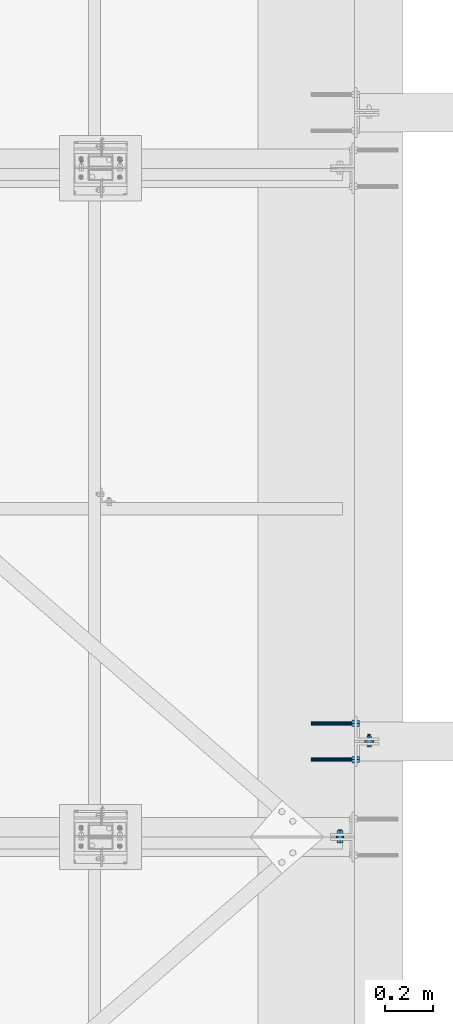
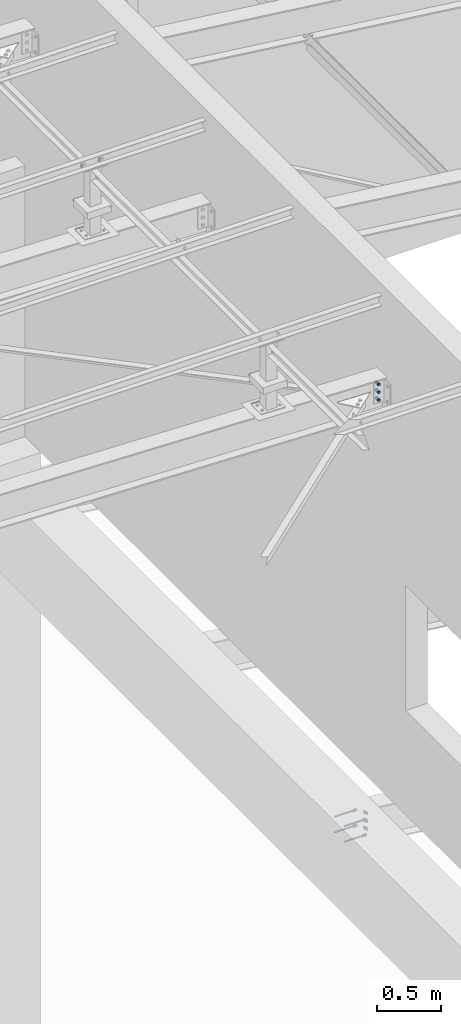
# One storey, part 276 of 3134: 5 mechanical fasteners, 5 elements without a shape of their own.
"""IFC2X3 building model written with IfcOpenShell, lengths in millimetres."""

from ifc_helpers import new_model, si_unit, frame, origin_with_axes, place, context, subcontext, project, spatial, faceted_brep, source, transform, mapped, material, type_object, element, aggregate, save


model = new_model("IFC2X3")

# Units and contexts
model_context = context("Model", 3, precision=1e-05, world=origin_with_axes())
body_context = subcontext(model_context, "Body", "Model", "MODEL_VIEW")
ifc_project = project(units=[si_unit("LENGTHUNIT", "METRE", prefix="MILLI"), si_unit("AREAUNIT", "SQUARE_METRE"), si_unit("VOLUMEUNIT", "CUBIC_METRE"), si_unit("MASSUNIT", "GRAM", prefix="KILO"), si_unit("TIMEUNIT", "SECOND"), si_unit("PLANEANGLEUNIT", "RADIAN"), si_unit("SOLIDANGLEUNIT", "STERADIAN"), si_unit("THERMODYNAMICTEMPERATUREUNIT", "DEGREE_CELSIUS"), si_unit("LUMINOUSINTENSITYUNIT", "LUMEN")], contexts=[model_context])

# Site, building, storey
site_placement = place(None, origin_with_axes())
site = spatial("IfcSite", under=ifc_project, at=site_placement, CompositionType="ELEMENT")
building_placement = place(site_placement, origin_with_axes())
building = spatial("IfcBuilding", under=site, at=building_placement, Name="Undefined", CompositionType="ELEMENT")
storey_placement = place(building_placement, origin_with_axes())
storey = spatial("IfcBuildingStorey", under=building, at=storey_placement, Name="Undefined", CompositionType="ELEMENT", Elevation=0.0)

# Assembly, mechanical fastener
assembly_1_placement = place(storey_placement, origin_with_axes())
assembly_1 = element("IfcElementAssembly", 1, at=assembly_1_placement, inside=storey, AssemblyPlace="NOTDEFINED", PredefinedType="RIGID_FRAME")
ifc_material_1 = material(Name="8.8")
mechanical_fastener_type = type_object("IfcMechanicalFastenerType", Name="Bolt assembly")
shared_shape_1 = source(origin_with_axes(), body_context, "Body", "Brep", [
    faceted_brep([(13.856406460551, -24.0, 0.0), (6.92820323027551, -24.0, 12.0), (-6.92820323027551, -24.0, 12.0), (-13.856406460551, -24.0, 1.69692038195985e-15), (-6.92820323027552, -24.0, -12.0), (6.9282032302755, -24.0, -12.0), (6.9282032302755, -14.0, -12.0), (-6.92820323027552, -14.0, -12.0), (-13.856406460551, -14.0, 1.69692038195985e-15), (-6.92820323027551, -14.0, 12.0), (6.92820323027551, -14.0, 12.0), (13.856406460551, -14.0, 0.0), (8.0, -14.0, 0.0), (6.92820323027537, -14.0, 4.00000000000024), (3.99999999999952, -14.0, 6.92820323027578), (-8.29068785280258e-13, -14.0, 8.0), (-4.00000000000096, -14.0, 6.92820323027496), (-6.9282032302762, -14.0, 3.99999999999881), (-8.0, -14.0, -1.65813757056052e-12), (-6.92820323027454, -14.0, -4.00000000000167), (-3.99999999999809, -14.0, -6.92820323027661), (2.47832457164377e-12, -14.0, -8.0), (4.00000000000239, -14.0, -6.92820323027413), (6.92820323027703, -14.0, -3.99999999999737), (6.92820323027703, 31.0, -3.99999999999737), (4.00000000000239, 31.0, -6.92820323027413), (2.47832457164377e-12, 31.0, -8.0), (-3.99999999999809, 31.0, -6.92820323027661), (-6.92820323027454, 31.0, -4.00000000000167), (-8.0, 31.0, -1.65813757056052e-12), (-6.9282032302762, 31.0, 3.99999999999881), (-4.00000000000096, 31.0, 6.92820323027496), (-8.29068785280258e-13, 31.0, 8.0), (3.99999999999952, 31.0, 6.92820323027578), (6.92820323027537, 31.0, 4.00000000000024), (8.0, 31.0, 0.0), (13.856406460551, 13.9999999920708, 0.0), (6.92820323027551, 13.9999999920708, 12.0), (-6.92820323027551, 13.9999999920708, 12.0), (-13.856406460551, 13.9999999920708, 1.69692038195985e-15), (-6.92820323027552, 13.9999999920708, -12.0), (6.9282032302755, 13.9999999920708, -12.0), (6.9282032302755, 27.0, -12.0), (-6.92820323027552, 27.0, -12.0), (-13.856406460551, 27.0, 1.69692038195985e-15), (-6.92820323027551, 27.0, 12.0), (6.92820323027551, 27.0, 12.0), (13.856406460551, 27.0, 0.0)], [[[0, 1, 2, 3, 4, 5]], [[6, 7, 8, 9, 10, 11]], [[0, 11, 10, 1]], [[1, 10, 9, 2]], [[2, 9, 8, 3]], [[3, 8, 7, 4]], [[4, 7, 6, 5]], [[5, 6, 11, 0]], [[12, 13, 14, 15, 16, 17, 18, 19, 20, 21, 22, 23]], [[24, 25, 26, 27, 28, 29, 30, 31, 32, 33, 34, 35]], [[12, 35, 34, 13]], [[13, 34, 33, 14]], [[14, 33, 32, 15]], [[15, 32, 31, 16]], [[16, 31, 30, 17]], [[17, 30, 29, 18]], [[18, 29, 28, 19]], [[19, 28, 27, 20]], [[20, 27, 26, 21]], [[21, 26, 25, 22]], [[22, 25, 24, 23]], [[23, 24, 35, 12]], [[36, 37, 38, 39, 40, 41]], [[42, 43, 44, 45, 46, 47]], [[36, 47, 46, 37]], [[37, 46, 45, 38]], [[38, 45, 44, 39]], [[39, 44, 43, 40]], [[40, 43, 42, 41]], [[41, 42, 47, 36]]]),
    faceted_brep([(9.0, -3.75, 8.0), (8.31491579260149, -3.75, 11.444150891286), (6.3639610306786, -3.75, 14.3639610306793), (-9.3270238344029e-13, -3.75, 17.0), (-4.50000000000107, -3.75, 15.7942286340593), (-7.79422863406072, -3.75, 12.4999999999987), (-9.0, -3.75, 7.99999999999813), (-9.0, -3.75, -8.00000000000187), (-7.79422863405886, -3.75, -12.5000000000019), (-4.49999999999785, -3.75, -15.7942286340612), (2.78811514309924e-12, -3.75, -17.0), (4.50000000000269, -3.75, -15.7942286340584), (7.79422863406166, -3.75, -12.499999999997), (9.0, -3.75, -7.99999999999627), (9.0, 3.75, -7.99999999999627), (7.79422863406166, 3.75, -12.499999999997), (4.50000000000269, 3.75, -15.7942286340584), (2.78811514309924e-12, 3.75, -17.0), (-4.49999999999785, 3.75, -15.7942286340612), (-7.79422863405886, 3.75, -12.5000000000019), (-9.0, 3.75, -8.00000000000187), (-9.0, 3.75, 7.99999999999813), (-7.79422863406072, 3.75, 12.4999999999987), (-4.50000000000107, 3.75, 15.7942286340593), (-9.3270238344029e-13, 3.75, 17.0), (3.44415089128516, 3.75, 16.3149157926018), (6.3639610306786, 3.75, 14.3639610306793), (8.31491579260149, 3.75, 11.444150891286), (9.0, 3.75, 8.0), (3.44415089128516, -3.75, 16.3149157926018), (9.0, 3.9, 0.0), (7.79422863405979, 3.9, 4.50000000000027), (4.49999999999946, 3.9, 7.79422863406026), (-9.3270238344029e-13, 3.9, 9.0), (-4.50000000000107, 3.9, 7.79422863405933), (-7.79422863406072, 3.9, 4.49999999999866), (-9.0, 3.9, -1.86540476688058e-12), (-7.79422863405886, 3.9, -4.50000000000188), (-4.49999999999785, 3.9, -7.79422863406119), (2.78811514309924e-12, 3.9, -9.0), (4.50000000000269, 3.9, -7.7942286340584), (7.79422863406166, 3.9, -4.49999999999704), (7.79422863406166, 14.0, -4.49999999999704), (4.50000000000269, 14.0, -7.7942286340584), (2.78811514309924e-12, 14.0, -9.0), (-4.49999999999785, 14.0, -7.79422863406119), (-7.79422863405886, 14.0, -4.50000000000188), (-9.0, 14.0, -1.86540476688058e-12), (-7.79422863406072, 14.0, 4.49999999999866), (-4.50000000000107, 14.0, 7.79422863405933), (-9.3270238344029e-13, 14.0, 9.0), (4.49999999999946, 14.0, 7.79422863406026), (7.79422863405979, 14.0, 4.50000000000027), (9.0, 14.0, 0.0), (9.0, -13.9, 0.0), (7.79422863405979, -13.9, 4.50000000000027), (4.49999999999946, -13.9, 7.79422863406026), (-9.3270238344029e-13, -13.9, 9.0), (-4.50000000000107, -13.9, 7.79422863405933), (-7.79422863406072, -13.9, 4.49999999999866), (-9.0, -13.9, -1.86540476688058e-12), (-7.79422863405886, -13.9, -4.50000000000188), (-4.49999999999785, -13.9, -7.79422863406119), (2.78811514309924e-12, -13.9, -9.0), (4.50000000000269, -13.9, -7.7942286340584), (7.79422863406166, -13.9, -4.49999999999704), (7.79422863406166, -3.9, -4.49999999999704), (4.50000000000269, -3.9, -7.7942286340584), (2.78811514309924e-12, -3.9, -9.0), (-4.49999999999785, -3.9, -7.79422863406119), (-7.79422863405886, -3.9, -4.50000000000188), (-9.0, -3.9, -1.86540476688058e-12), (-7.79422863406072, -3.9, 4.49999999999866), (-4.50000000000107, -3.9, 7.79422863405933), (-9.3270238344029e-13, -3.9, 9.0), (4.49999999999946, -3.9, 7.79422863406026), (7.79422863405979, -3.9, 4.50000000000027), (9.0, -3.9, 0.0)], [[[0, 1, 2, 3, 4, 5, 6, 7, 8, 9, 10, 11, 12, 13]], [[14, 15, 16, 17, 18, 19, 20, 21, 22, 23, 24, 25, 26, 27, 28]], [[0, 28, 27, 1]], [[1, 27, 26, 2]], [[2, 26, 25, 29]], [[29, 25, 24, 3]], [[3, 24, 23, 4]], [[4, 23, 22, 5]], [[5, 22, 21, 6]], [[6, 21, 20, 7]], [[7, 20, 19, 8]], [[8, 19, 18, 9]], [[9, 18, 17, 10]], [[10, 17, 16, 11]], [[11, 16, 15, 12]], [[12, 15, 14, 13]], [[13, 14, 28, 0]], [[30, 31, 32, 33, 34, 35, 36, 37, 38, 39, 40, 41]], [[42, 43, 44, 45, 46, 47, 48, 49, 50, 51, 52, 53]], [[30, 53, 52, 31]], [[31, 52, 51, 32]], [[32, 51, 50, 33]], [[33, 50, 49, 34]], [[34, 49, 48, 35]], [[35, 48, 47, 36]], [[36, 47, 46, 37]], [[37, 46, 45, 38]], [[38, 45, 44, 39]], [[39, 44, 43, 40]], [[40, 43, 42, 41]], [[41, 42, 53, 30]], [[54, 55, 56, 57, 58, 59, 60, 61, 62, 63, 64, 65]], [[66, 67, 68, 69, 70, 71, 72, 73, 74, 75, 76, 77]], [[54, 77, 76, 55]], [[55, 76, 75, 56]], [[56, 75, 74, 57]], [[57, 74, 73, 58]], [[58, 73, 72, 59]], [[59, 72, 71, 60]], [[60, 71, 70, 61]], [[61, 70, 69, 62]], [[62, 69, 68, 63]], [[63, 68, 67, 64]], [[64, 67, 66, 65]], [[65, 66, 77, 54]]]),
])
mechanical_fastener_1_placement = place(assembly_1_placement, frame((32665.0, 55455.0, 10096.4159140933), z_axis=(1.0, 0.0, 0.0), x_axis=(0.0, 0.0, -1.0)))
mechanical_fastener_1 = element("IfcMechanicalFastener", 2, at=mechanical_fastener_1_placement, type_object=mechanical_fastener_type, material=ifc_material_1, Name="Bolt assembly", NominalDiameter=16.0, NominalLength=45.0, context=body_context, shape_type="MappedRepresentation", body=[
    mapped(shared_shape_1, transform((0.0, 0.0, 0.0))),
    mapped(shared_shape_1, transform((75.0, 0.0, 0.0))),
    mapped(shared_shape_1, transform((150.0, 0.0, 0.0))),
])
aggregate(assembly_1, [mechanical_fastener_1])

assembly_2_placement = place(storey_placement, origin_with_axes())
assembly_2 = element("IfcElementAssembly", 3, at=assembly_2_placement, inside=storey, AssemblyPlace="NOTDEFINED", PredefinedType="RIGID_FRAME")
ifc_material_2 = material(Name="HILTI-HAS")
shared_shape_2 = source(origin_with_axes(), body_context, "Body", "Brep", [
    faceted_brep([(13.856406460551, -20.56, 0.0), (6.92820323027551, -20.56, 12.0), (-6.92820323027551, -20.56, 12.0), (-13.856406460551, -20.56, 1.69692038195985e-15), (-6.92820323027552, -20.56, -12.0), (6.9282032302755, -20.56, -12.0), (6.9282032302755, -10.0, -12.0), (-6.92820323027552, -10.0, -12.0), (-13.856406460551, -10.0, 1.69692038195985e-15), (-6.92820323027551, -10.0, 12.0), (6.92820323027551, -10.0, 12.0), (13.856406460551, -10.0, 0.0), (8.0, -10.0, 0.0), (6.92820323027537, -10.0, 4.00000000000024), (3.99999999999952, -10.0, 6.92820323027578), (-8.29068785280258e-13, -10.0, 8.0), (-4.00000000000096, -10.0, 6.92820323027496), (-6.9282032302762, -10.0, 3.99999999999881), (-8.0, -10.0, -1.65813757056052e-12), (-6.92820323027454, -10.0, -4.00000000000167), (-3.99999999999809, -10.0, -6.92820323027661), (2.47832457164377e-12, -10.0, -8.0), (4.00000000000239, -10.0, -6.92820323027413), (6.92820323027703, -10.0, -3.99999999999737), (6.92820323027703, 180.0, -3.99999999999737), (4.00000000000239, 180.0, -6.92820323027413), (2.47832457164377e-12, 180.0, -8.0), (-3.99999999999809, 180.0, -6.92820323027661), (-6.92820323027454, 180.0, -4.00000000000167), (-8.0, 180.0, -1.65813757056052e-12), (-6.9282032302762, 180.0, 3.99999999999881), (-4.00000000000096, 180.0, 6.92820323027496), (-8.29068785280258e-13, 180.0, 8.0), (3.99999999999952, 180.0, 6.92820323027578), (6.92820323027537, 180.0, 4.00000000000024), (8.0, 180.0, 0.0), (15.3344231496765, 7.105427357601e-15, 0.0), (7.66721157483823, 7.105427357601e-15, 13.28), (-7.66721157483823, 7.105427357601e-15, 13.28), (-15.3344231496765, 7.105427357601e-15, 1.87792522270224e-15), (-7.66721157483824, 7.105427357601e-15, -13.28), (7.66721157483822, 7.105427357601e-15, -13.28), (7.66721157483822, 10.56, -13.28), (-7.66721157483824, 10.56, -13.28), (-15.3344231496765, 10.56, 1.87792522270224e-15), (-7.66721157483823, 10.56, 13.28), (7.66721157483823, 10.56, 13.28), (15.3344231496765, 10.56, 0.0)], [[[0, 1, 2, 3, 4, 5]], [[6, 7, 8, 9, 10, 11]], [[0, 11, 10, 1]], [[1, 10, 9, 2]], [[2, 9, 8, 3]], [[3, 8, 7, 4]], [[4, 7, 6, 5]], [[5, 6, 11, 0]], [[12, 13, 14, 15, 16, 17, 18, 19, 20, 21, 22, 23]], [[24, 25, 26, 27, 28, 29, 30, 31, 32, 33, 34, 35]], [[12, 35, 34, 13]], [[13, 34, 33, 14]], [[14, 33, 32, 15]], [[15, 32, 31, 16]], [[16, 31, 30, 17]], [[17, 30, 29, 18]], [[18, 29, 28, 19]], [[19, 28, 27, 20]], [[20, 27, 26, 21]], [[21, 26, 25, 22]], [[22, 25, 24, 23]], [[23, 24, 35, 12]], [[36, 37, 38, 39, 40, 41]], [[42, 43, 44, 45, 46, 47]], [[36, 47, 46, 37]], [[37, 46, 45, 38]], [[38, 45, 44, 39]], [[39, 44, 43, 40]], [[40, 43, 42, 41]], [[41, 42, 47, 36]]]),
    faceted_brep([(9.0, -10.0, 0.0), (7.79422863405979, -10.0, 4.50000000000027), (4.49999999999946, -10.0, 7.79422863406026), (-9.3270238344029e-13, -10.0, 9.0), (-4.50000000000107, -10.0, 7.79422863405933), (-7.79422863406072, -10.0, 4.49999999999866), (-9.0, -10.0, -1.86540476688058e-12), (-7.79422863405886, -10.0, -4.50000000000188), (-4.49999999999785, -10.0, -7.79422863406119), (2.78811514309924e-12, -10.0, -9.0), (4.50000000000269, -10.0, -7.7942286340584), (7.79422863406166, -10.0, -4.49999999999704), (7.79422863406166, 0.100000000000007, -4.49999999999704), (4.50000000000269, 0.100000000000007, -7.7942286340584), (2.78811514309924e-12, 0.100000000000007, -9.0), (-4.49999999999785, 0.100000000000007, -7.79422863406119), (-7.79422863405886, 0.100000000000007, -4.50000000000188), (-9.0, 0.100000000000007, -1.86540476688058e-12), (-7.79422863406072, 0.100000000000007, 4.49999999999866), (-4.50000000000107, 0.100000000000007, 7.79422863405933), (-9.3270238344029e-13, 0.100000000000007, 9.0), (4.49999999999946, 0.100000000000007, 7.79422863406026), (7.79422863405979, 0.100000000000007, 4.50000000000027), (9.0, 0.100000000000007, 0.0)], [[[0, 1, 2, 3, 4, 5, 6, 7, 8, 9, 10, 11]], [[12, 13, 14, 15, 16, 17, 18, 19, 20, 21, 22, 23]], [[0, 23, 22, 1]], [[1, 22, 21, 2]], [[2, 21, 20, 3]], [[3, 20, 19, 4]], [[4, 19, 18, 5]], [[5, 18, 17, 6]], [[6, 17, 16, 7]], [[7, 16, 15, 8]], [[8, 15, 14, 9]], [[9, 14, 13, 10]], [[10, 13, 12, 11]], [[11, 12, 23, 0]]]),
])
mechanical_fastener_2_placement = place(assembly_2_placement, frame((32724.9999999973, 55774.9999999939, 5696.01703557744), z_axis=(0.0, 1.0, 0.0), x_axis=(0.0, 0.0, -1.0)))
mechanical_fastener_2 = element("IfcMechanicalFastener", 4, at=mechanical_fastener_2_placement, type_object=mechanical_fastener_type, material=ifc_material_2, Name="Bolt assembly", NominalDiameter=16.0, NominalLength=190.0, context=body_context, shape_type="MappedRepresentation", body=[
    mapped(shared_shape_2, transform((0.0, 0.0, 0.0))),
    mapped(shared_shape_2, transform((150.0, 0.0, 0.0))),
])
aggregate(assembly_2, [mechanical_fastener_2])

assembly_3_placement = place(storey_placement, origin_with_axes())
assembly_3 = element("IfcElementAssembly", 5, at=assembly_3_placement, inside=storey, AssemblyPlace="NOTDEFINED", PredefinedType="RIGID_FRAME")
mechanical_fastener_3_placement = place(assembly_3_placement, frame((32724.999999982, 55924.9999999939, 5696.01703557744), z_axis=(0.0, 1.0, 0.0), x_axis=(0.0, 0.0, -1.0)))
mechanical_fastener_3 = element("IfcMechanicalFastener", 6, at=mechanical_fastener_3_placement, type_object=mechanical_fastener_type, material=ifc_material_2, Name="Bolt assembly", NominalDiameter=16.0, NominalLength=190.0, context=body_context, shape_type="MappedRepresentation", body=[
    mapped(shared_shape_2, transform((0.0, 0.0, 0.0))),
    mapped(shared_shape_2, transform((150.0, 0.0, 0.0))),
])
aggregate(assembly_3, [mechanical_fastener_3])

assembly_4_placement = place(storey_placement, origin_with_axes())
assembly_4 = element("IfcElementAssembly", 7, at=assembly_4_placement, inside=storey, Name="IPE330", AssemblyPlace="NOTDEFINED", PredefinedType="RIGID_FRAME")
shared_shape_3 = source(origin_with_axes(), body_context, "Body", "Brep", [
    faceted_brep([(10.9696551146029, -21.75, 0.0), (5.48482755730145, -21.75, 9.5), (-5.48482755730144, -21.75, 9.5), (-10.9696551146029, -21.75, 1.34339530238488e-15), (-5.48482755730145, -21.75, -9.5), (5.48482755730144, -21.75, -9.50000000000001), (5.48482755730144, -13.75, -9.50000000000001), (-5.48482755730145, -13.75, -9.5), (-10.9696551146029, -13.75, 1.34339530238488e-15), (-5.48482755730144, -13.75, 9.5), (5.48482755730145, -13.75, 9.5), (10.9696551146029, -13.75, 0.0), (6.0, -13.75, 0.0), (5.19615242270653, -13.75, 3.00000000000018), (2.99999999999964, -13.75, 5.19615242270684), (-6.21801588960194e-13, -13.75, 6.0), (-3.00000000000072, -13.75, 5.19615242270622), (-5.19615242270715, -13.75, 2.9999999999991), (-6.0, -13.75, -1.24360317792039e-12), (-5.19615242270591, -13.75, -3.00000000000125), (-2.99999999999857, -13.75, -5.19615242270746), (1.85874342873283e-12, -13.75, -6.0), (3.00000000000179, -13.75, -5.1961524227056), (5.19615242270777, -13.75, -2.99999999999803), (5.19615242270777, 31.25, -2.99999999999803), (3.00000000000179, 31.25, -5.1961524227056), (1.85874342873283e-12, 31.25, -6.0), (-2.99999999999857, 31.25, -5.19615242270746), (-5.19615242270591, 31.25, -3.00000000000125), (-6.0, 31.25, -1.24360317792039e-12), (-5.19615242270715, 31.25, 2.9999999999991), (-3.00000000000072, 31.25, 5.19615242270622), (-6.21801588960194e-13, 31.25, 6.0), (2.99999999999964, 31.25, 5.19615242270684), (5.19615242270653, 31.25, 3.00000000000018), (6.0, 31.25, 0.0), (10.9696551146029, 13.7500000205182, 0.0), (5.48482755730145, 13.7500000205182, 9.5), (-5.48482755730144, 13.7500000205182, 9.5), (-10.9696551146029, 13.7500000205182, 1.34339530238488e-15), (-5.48482755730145, 13.7500000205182, -9.5), (5.48482755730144, 13.7500000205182, -9.50000000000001), (5.48482755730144, 23.7500000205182, -9.50000000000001), (-5.48482755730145, 23.7500000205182, -9.5), (-10.9696551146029, 23.7500000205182, 1.34339530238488e-15), (-5.48482755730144, 23.7500000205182, 9.5), (5.48482755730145, 23.7500000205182, 9.5), (10.9696551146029, 23.7500000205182, 0.0)], [[[0, 1, 2, 3, 4, 5]], [[6, 7, 8, 9, 10, 11]], [[0, 11, 10, 1]], [[1, 10, 9, 2]], [[2, 9, 8, 3]], [[3, 8, 7, 4]], [[4, 7, 6, 5]], [[5, 6, 11, 0]], [[12, 13, 14, 15, 16, 17, 18, 19, 20, 21, 22, 23]], [[24, 25, 26, 27, 28, 29, 30, 31, 32, 33, 34, 35]], [[12, 35, 34, 13]], [[13, 34, 33, 14]], [[14, 33, 32, 15]], [[15, 32, 31, 16]], [[16, 31, 30, 17]], [[17, 30, 29, 18]], [[18, 29, 28, 19]], [[19, 28, 27, 20]], [[20, 27, 26, 21]], [[21, 26, 25, 22]], [[22, 25, 24, 23]], [[23, 24, 35, 12]], [[36, 37, 38, 39, 40, 41]], [[42, 43, 44, 45, 46, 47]], [[36, 47, 46, 37]], [[37, 46, 45, 38]], [[38, 45, 44, 39]], [[39, 44, 43, 40]], [[40, 43, 42, 41]], [[41, 42, 47, 36]]]),
    faceted_brep([(7.0, -13.65, 0.0), (6.06217782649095, -13.65, 3.50000000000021), (3.49999999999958, -13.65, 6.06217782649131), (-7.25435187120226e-13, -13.65, 7.0), (-3.50000000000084, -13.65, 6.06217782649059), (-6.06217782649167, -13.65, 3.49999999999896), (-7.0, -13.65, -1.45087037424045e-12), (-6.06217782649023, -13.65, -3.50000000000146), (-3.49999999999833, -13.65, -6.06217782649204), (2.1685340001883e-12, -13.65, -7.0), (3.50000000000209, -13.65, -6.06217782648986), (6.0621778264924, -13.65, -3.4999999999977), (6.0621778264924, -3.65, -3.4999999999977), (3.50000000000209, -3.65, -6.06217782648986), (2.1685340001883e-12, -3.65, -7.0), (-3.49999999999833, -3.65, -6.06217782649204), (-6.06217782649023, -3.65, -3.50000000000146), (-7.0, -3.65, -1.45087037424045e-12), (-6.06217782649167, -3.65, 3.49999999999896), (-3.50000000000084, -3.65, 6.06217782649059), (-7.25435187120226e-13, -3.65, 7.0), (3.49999999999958, -3.65, 6.06217782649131), (6.06217782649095, -3.65, 3.50000000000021), (7.0, -3.65, 0.0), (7.0, -3.75, 13.0), (6.46715672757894, -3.75, 15.6787840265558), (4.94974746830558, -3.75, 17.9497474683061), (-7.25435187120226e-13, -3.75, 20.0), (-3.50000000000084, -3.75, 19.0621778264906), (-6.06217782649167, -3.75, 16.499999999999), (-7.0, -3.75, 12.9999999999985), (-7.0, -3.75, -13.0000000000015), (-6.06217782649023, -3.75, -16.5000000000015), (-3.49999999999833, -3.75, -19.062177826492), (2.1685340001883e-12, -3.75, -20.0), (3.50000000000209, -3.75, -19.0621778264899), (6.0621778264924, -3.75, -16.4999999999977), (7.0, -3.75, -12.9999999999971), (7.0, 3.75, -12.9999999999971), (6.0621778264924, 3.75, -16.4999999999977), (3.50000000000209, 3.75, -19.0621778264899), (2.1685340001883e-12, 3.75, -20.0), (-3.49999999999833, 3.75, -19.062177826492), (-6.06217782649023, 3.75, -16.5000000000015), (-7.0, 3.75, -13.0000000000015), (-7.0, 3.75, 12.9999999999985), (-6.06217782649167, 3.75, 16.499999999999), (-3.50000000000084, 3.75, 19.0621778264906), (-7.25435187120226e-13, 3.75, 20.0), (2.67878402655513, 3.75, 19.4671567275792), (4.94974746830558, 3.75, 17.9497474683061), (6.46715672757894, 3.75, 15.6787840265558), (7.0, 3.75, 13.0), (2.67878402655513, -3.75, 19.4671567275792), (7.0, 3.65000002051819, 0.0), (6.06217782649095, 3.65000002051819, 3.50000000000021), (3.49999999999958, 3.65000002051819, 6.06217782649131), (-7.25435187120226e-13, 3.65000002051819, 7.0), (-3.50000000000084, 3.65000002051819, 6.06217782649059), (-6.06217782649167, 3.65000002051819, 3.49999999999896), (-7.0, 3.65000002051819, -1.45087037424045e-12), (-6.06217782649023, 3.65000002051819, -3.50000000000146), (-3.49999999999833, 3.65000002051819, -6.06217782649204), (2.1685340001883e-12, 3.65000002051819, -7.0), (3.50000000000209, 3.65000002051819, -6.06217782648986), (6.0621778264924, 3.65000002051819, -3.4999999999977), (6.0621778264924, 13.7500000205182, -3.4999999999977), (3.50000000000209, 13.7500000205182, -6.06217782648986), (2.1685340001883e-12, 13.7500000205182, -7.0), (-3.49999999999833, 13.7500000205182, -6.06217782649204), (-6.06217782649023, 13.7500000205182, -3.50000000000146), (-7.0, 13.7500000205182, -1.45087037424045e-12), (-6.06217782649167, 13.7500000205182, 3.49999999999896), (-3.50000000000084, 13.7500000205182, 6.06217782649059), (-7.25435187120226e-13, 13.7500000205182, 7.0), (3.49999999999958, 13.7500000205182, 6.06217782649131), (6.06217782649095, 13.7500000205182, 3.50000000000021), (7.0, 13.7500000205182, 0.0)], [[[0, 1, 2, 3, 4, 5, 6, 7, 8, 9, 10, 11]], [[12, 13, 14, 15, 16, 17, 18, 19, 20, 21, 22, 23]], [[0, 23, 22, 1]], [[1, 22, 21, 2]], [[2, 21, 20, 3]], [[3, 20, 19, 4]], [[4, 19, 18, 5]], [[5, 18, 17, 6]], [[6, 17, 16, 7]], [[7, 16, 15, 8]], [[8, 15, 14, 9]], [[9, 14, 13, 10]], [[10, 13, 12, 11]], [[11, 12, 23, 0]], [[24, 25, 26, 27, 28, 29, 30, 31, 32, 33, 34, 35, 36, 37]], [[38, 39, 40, 41, 42, 43, 44, 45, 46, 47, 48, 49, 50, 51, 52]], [[24, 52, 51, 25]], [[25, 51, 50, 26]], [[26, 50, 49, 53]], [[53, 49, 48, 27]], [[27, 48, 47, 28]], [[28, 47, 46, 29]], [[29, 46, 45, 30]], [[30, 45, 44, 31]], [[31, 44, 43, 32]], [[32, 43, 42, 33]], [[33, 42, 41, 34]], [[34, 41, 40, 35]], [[35, 40, 39, 36]], [[36, 39, 38, 37]], [[37, 38, 52, 24]], [[54, 55, 56, 57, 58, 59, 60, 61, 62, 63, 64, 65]], [[66, 67, 68, 69, 70, 71, 72, 73, 74, 75, 76, 77]], [[54, 77, 76, 55]], [[55, 76, 75, 56]], [[56, 75, 74, 57]], [[57, 74, 73, 58]], [[58, 73, 72, 59]], [[59, 72, 71, 60]], [[60, 71, 70, 61]], [[61, 70, 69, 62]], [[62, 69, 68, 63]], [[63, 68, 67, 64]], [[64, 67, 66, 65]], [[65, 66, 77, 54]]]),
])
mechanical_fastener_4_placement = place(assembly_4_placement, frame((32785.0, 55850.0, 5696.01703557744), z_axis=(1.0, 0.0, 0.0), x_axis=(0.0, 0.0, -1.0)))
mechanical_fastener_4 = element("IfcMechanicalFastener", 8, at=mechanical_fastener_4_placement, type_object=mechanical_fastener_type, material=ifc_material_1, Name="Bolt assembly", NominalDiameter=12.0, NominalLength=45.0, context=body_context, shape_type="MappedRepresentation", body=[
    mapped(shared_shape_3, transform((0.0, 0.0, 0.0))),
    mapped(shared_shape_3, transform((75.0, 0.0, 0.0))),
    mapped(shared_shape_3, transform((150.0, 0.0, 0.0))),
])
aggregate(assembly_4, [mechanical_fastener_4])

assembly_5_placement = place(storey_placement, origin_with_axes())
assembly_5 = element("IfcElementAssembly", 9, at=assembly_5_placement, inside=storey, AssemblyPlace="NOTDEFINED", PredefinedType="RIGID_FRAME")
shared_shape_4 = source(origin_with_axes(), body_context, "Body", "Brep", [
    faceted_brep([(10.9696551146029, -14.0, 0.0), (5.48482755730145, -14.0, 9.5), (-5.48482755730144, -14.0, 9.5), (-10.9696551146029, -14.0, 1.34339530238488e-15), (-5.48482755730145, -14.0, -9.5), (5.48482755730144, -14.0, -9.50000000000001), (5.48482755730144, -6.0, -9.50000000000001), (-5.48482755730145, -6.0, -9.5), (-10.9696551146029, -6.0, 1.34339530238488e-15), (-5.48482755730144, -6.0, 9.5), (5.48482755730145, -6.0, 9.5), (10.9696551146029, -6.0, 0.0), (6.0, -6.0, 0.0), (5.19615242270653, -6.0, 3.00000000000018), (2.99999999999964, -6.0, 5.19615242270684), (-6.21801588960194e-13, -6.0, 6.0), (-3.00000000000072, -6.0, 5.19615242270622), (-5.19615242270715, -6.0, 2.9999999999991), (-6.0, -6.0, -1.24360317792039e-12), (-5.19615242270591, -6.0, -3.00000000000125), (-2.99999999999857, -6.0, -5.19615242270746), (1.85874342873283e-12, -6.0, -6.0), (3.00000000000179, -6.0, -5.1961524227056), (5.19615242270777, -6.0, -2.99999999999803), (5.19615242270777, 24.0, -2.99999999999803), (3.00000000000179, 24.0, -5.1961524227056), (1.85874342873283e-12, 24.0, -6.0), (-2.99999999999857, 24.0, -5.19615242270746), (-5.19615242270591, 24.0, -3.00000000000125), (-6.0, 24.0, -1.24360317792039e-12), (-5.19615242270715, 24.0, 2.9999999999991), (-3.00000000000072, 24.0, 5.19615242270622), (-6.21801588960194e-13, 24.0, 6.0), (2.99999999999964, 24.0, 5.19615242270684), (5.19615242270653, 24.0, 3.00000000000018), (6.0, 24.0, 0.0), (10.9696551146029, 6.00000000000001, 0.0), (5.48482755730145, 6.00000000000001, 9.5), (-5.48482755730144, 6.00000000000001, 9.5), (-10.9696551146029, 6.00000000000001, 1.34339530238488e-15), (-5.48482755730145, 6.00000000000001, -9.5), (5.48482755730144, 6.00000000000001, -9.50000000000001), (5.48482755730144, 16.0, -9.50000000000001), (-5.48482755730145, 16.0, -9.5), (-10.9696551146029, 16.0, 1.34339530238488e-15), (-5.48482755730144, 16.0, 9.5), (5.48482755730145, 16.0, 9.5), (10.9696551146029, 16.0, 0.0)], [[[0, 1, 2, 3, 4, 5]], [[6, 7, 8, 9, 10, 11]], [[0, 11, 10, 1]], [[1, 10, 9, 2]], [[2, 9, 8, 3]], [[3, 8, 7, 4]], [[4, 7, 6, 5]], [[5, 6, 11, 0]], [[12, 13, 14, 15, 16, 17, 18, 19, 20, 21, 22, 23]], [[24, 25, 26, 27, 28, 29, 30, 31, 32, 33, 34, 35]], [[12, 35, 34, 13]], [[13, 34, 33, 14]], [[14, 33, 32, 15]], [[15, 32, 31, 16]], [[16, 31, 30, 17]], [[17, 30, 29, 18]], [[18, 29, 28, 19]], [[19, 28, 27, 20]], [[20, 27, 26, 21]], [[21, 26, 25, 22]], [[22, 25, 24, 23]], [[23, 24, 35, 12]], [[36, 37, 38, 39, 40, 41]], [[42, 43, 44, 45, 46, 47]], [[36, 47, 46, 37]], [[37, 46, 45, 38]], [[38, 45, 44, 39]], [[39, 44, 43, 40]], [[40, 43, 42, 41]], [[41, 42, 47, 36]]]),
    faceted_brep([(7.0, -0.1, 0.0), (6.06217782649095, -0.1, 3.50000000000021), (3.49999999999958, -0.1, 6.06217782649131), (-7.25435187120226e-13, -0.1, 7.0), (-3.50000000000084, -0.1, 6.06217782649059), (-6.06217782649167, -0.1, 3.49999999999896), (-7.0, -0.1, -1.45087037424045e-12), (-6.06217782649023, -0.1, -3.50000000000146), (-3.49999999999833, -0.1, -6.06217782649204), (2.1685340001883e-12, -0.1, -7.0), (3.50000000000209, -0.1, -6.06217782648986), (6.0621778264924, -0.1, -3.4999999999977), (6.0621778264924, 6.00000000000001, -3.4999999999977), (3.50000000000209, 6.00000000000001, -6.06217782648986), (2.1685340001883e-12, 6.00000000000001, -7.0), (-3.49999999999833, 6.00000000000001, -6.06217782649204), (-6.06217782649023, 6.00000000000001, -3.50000000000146), (-7.0, 6.00000000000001, -1.45087037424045e-12), (-6.06217782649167, 6.00000000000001, 3.49999999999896), (-3.50000000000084, 6.00000000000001, 6.06217782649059), (-7.25435187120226e-13, 6.00000000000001, 7.0), (3.49999999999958, 6.00000000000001, 6.06217782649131), (6.06217782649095, 6.00000000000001, 3.50000000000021), (7.0, 6.00000000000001, 0.0), (7.0, -5.9, 0.0), (6.06217782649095, -5.9, 3.50000000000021), (3.49999999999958, -5.9, 6.06217782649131), (-7.25435187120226e-13, -5.9, 7.0), (-3.50000000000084, -5.9, 6.06217782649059), (-6.06217782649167, -5.9, 3.49999999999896), (-7.0, -5.9, -1.45087037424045e-12), (-6.06217782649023, -5.9, -3.50000000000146), (-3.49999999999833, -5.9, -6.06217782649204), (2.1685340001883e-12, -5.9, -7.0), (3.50000000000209, -5.9, -6.06217782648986), (6.0621778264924, -5.9, -3.4999999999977), (6.0621778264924, 0.0999999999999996, -3.4999999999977), (3.50000000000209, 0.0999999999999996, -6.06217782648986), (2.1685340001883e-12, 0.0999999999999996, -7.0), (-3.49999999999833, 0.0999999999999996, -6.06217782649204), (-6.06217782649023, 0.0999999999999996, -3.50000000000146), (-7.0, 0.0999999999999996, -1.45087037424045e-12), (-6.06217782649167, 0.0999999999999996, 3.49999999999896), (-3.50000000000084, 0.0999999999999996, 6.06217782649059), (-7.25435187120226e-13, 0.0999999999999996, 7.0), (3.49999999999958, 0.0999999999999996, 6.06217782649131), (6.06217782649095, 0.0999999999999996, 3.50000000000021), (7.0, 0.0999999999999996, 0.0)], [[[0, 1, 2, 3, 4, 5, 6, 7, 8, 9, 10, 11]], [[12, 13, 14, 15, 16, 17, 18, 19, 20, 21, 22, 23]], [[0, 23, 22, 1]], [[1, 22, 21, 2]], [[2, 21, 20, 3]], [[3, 20, 19, 4]], [[4, 19, 18, 5]], [[5, 18, 17, 6]], [[6, 17, 16, 7]], [[7, 16, 15, 8]], [[8, 15, 14, 9]], [[9, 14, 13, 10]], [[10, 13, 12, 11]], [[11, 12, 23, 0]], [[24, 25, 26, 27, 28, 29, 30, 31, 32, 33, 34, 35]], [[36, 37, 38, 39, 40, 41, 42, 43, 44, 45, 46, 47]], [[24, 47, 46, 25]], [[25, 46, 45, 26]], [[26, 45, 44, 27]], [[27, 44, 43, 28]], [[28, 43, 42, 29]], [[29, 42, 41, 30]], [[30, 41, 40, 31]], [[31, 40, 39, 32]], [[32, 39, 38, 33]], [[33, 38, 37, 34]], [[34, 37, 36, 35]], [[35, 36, 47, 24]]]),
])
mechanical_fastener_5_placement = place(assembly_5_placement, frame((31675.0, 58255.0, 10865.0), z_axis=(1.0, 0.0, 0.0), x_axis=(0.0, -1.0, 0.0)))
mechanical_fastener_5 = element("IfcMechanicalFastener", 10, at=mechanical_fastener_5_placement, type_object=mechanical_fastener_type, material=ifc_material_1, Name="Bolt assembly", NominalDiameter=12.0, NominalLength=30.0, context=body_context, shape_type="MappedRepresentation", body=[
    mapped(shared_shape_4, transform((0.0, -5.32963895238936e-10, -79.9999999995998))),
    mapped(shared_shape_4, transform((0.0, 5.3114490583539e-10, 79.9999999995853))),
])
aggregate(assembly_5, [mechanical_fastener_5])

save(model, "model.ifc")
